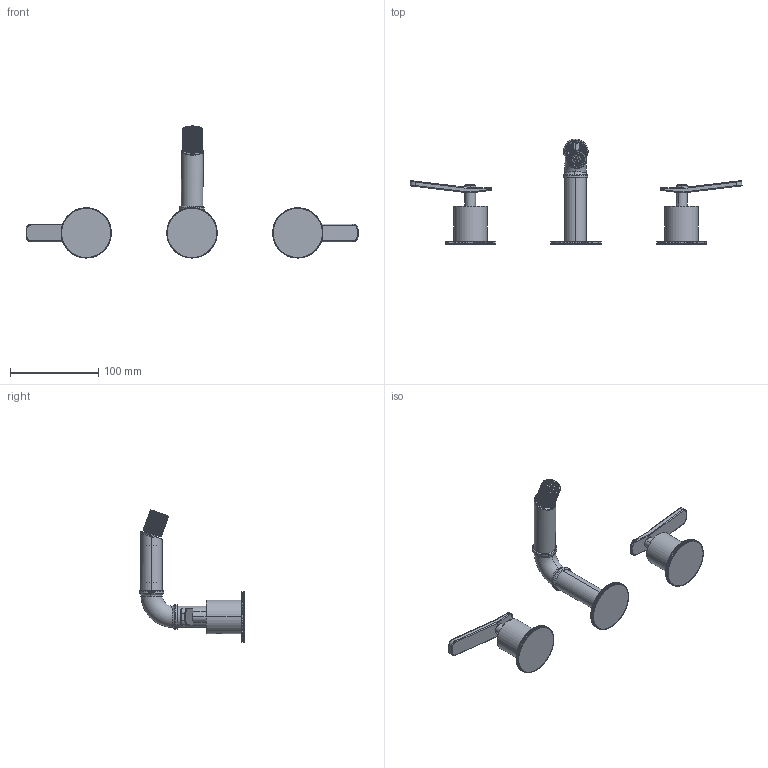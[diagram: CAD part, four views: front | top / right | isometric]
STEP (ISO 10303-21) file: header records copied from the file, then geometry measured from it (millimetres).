
FILE_DESCRIPTION (( 'STEP AP214' ), '1' );
FILE_NAME ('79423110 x architetti.STEP', '2024-11-22T14:01:01', ( '' ), ( '' ), 'SwSTEP 2.0', 'SolidWorks 2020', '' );
FILE_SCHEMA (( 'AUTOMOTIVE_DESIGN' ));
Length unit declared in the file: millimetre
Products named in the file (3): F0004210       ; 79423110 x architetti
Assembly tree (2 placements, depth 2):
  79423110 x architetti
    79423110 x architetti
    F0004210       
Bounding box: 376.81 x 120 x 149.84 mm (x, y, z)
Volume: 244873 mm3; surface area: 82027.6 mm2
Topology: 4 solids, 25 shells, 4640 faces, 12398 edges, 7979 vertices
Faces by surface type: cylinder 2204, bspline 935, torus 824, plane 551, cone 126
Full cylindrical faces by diameter (mm): 15.1 x2
Entity records: 210782 total; most frequent: CARTESIAN_POINT 77778, ORIENTED_EDGE 24765, DIRECTION 16002, EDGE_CURVE 12392, VERTEX_POINT 7978, AXIS2_PLACEMENT_3D 6525, B_SPLINE_CURVE_WITH_KNOTS 6488, EDGE_LOOP 4839
